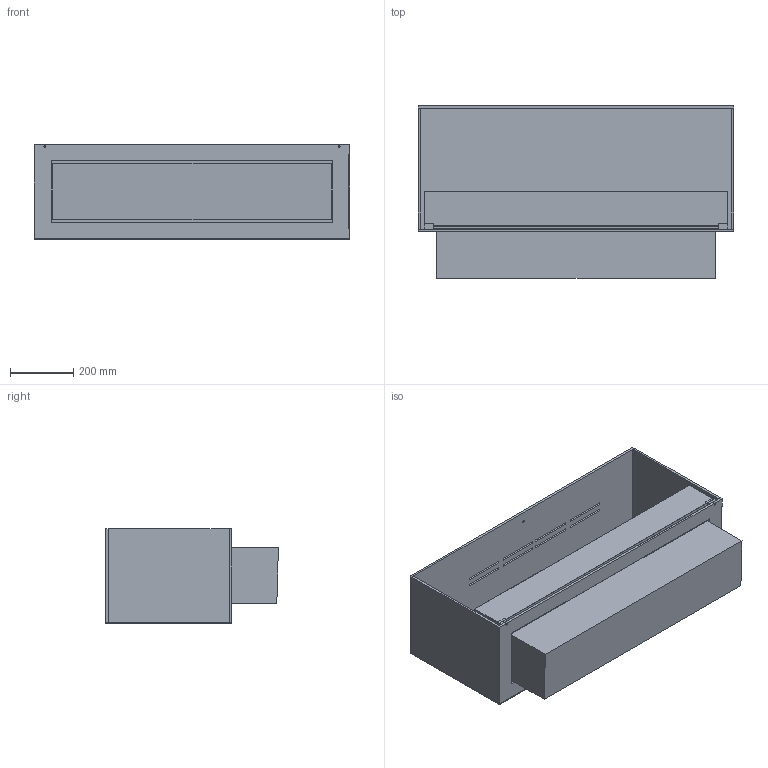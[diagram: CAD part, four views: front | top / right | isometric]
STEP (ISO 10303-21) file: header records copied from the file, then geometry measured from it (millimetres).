
FILE_DESCRIPTION (( 'STEP AP203' ), '1' );
FILE_NAME ('Montreal open front 1000 F3.STEP', '2024-03-13T10:42:40', ( '' ), ( '' ), 'SwSTEP 2.0', 'SolidWorks 2023', '' );
FILE_SCHEMA (( 'CONFIG_CONTROL_DESIGN' ));
Length unit declared in the file: millimetre
Products named in the file (9): 8mm alu Top - P&G -1120SIShowroom -look book; Glas holder flad med sider 10mm; Denver F6_uden glas; Montreal open front 1000 F3; 3mm alu Bag - P&G -1120SIShowroom -look book; Part3^P&G -1120SI Montreal Single AUTOShowroom -look book; 8mm alu Bund - P&G -1120SIShowroom -look book; Part1^P&G -1120SI Montreal Single AUTOShowroom -look book; 8mm alu Side - P&G -1120SIShowroom -look book_Glass
Assembly tree (9 placements, depth 2):
  Montreal open front 1000 F3
    8mm alu Top - P&G -1120SIShowroom -look book
    8mm alu Bund - P&G -1120SIShowroom -look book
    8mm alu Side - P&G -1120SIShowroom -look book_Glass  x2
    3mm alu Bag - P&G -1120SIShowroom -look book
    Glas holder flad med sider 10mm  x2
    Part1^P&G -1120SI Montreal Single AUTOShowroom -look book
    Denver F6_uden glas
  Part3^P&G -1120SI Montreal Single AUTOShowroom -look book
Bounding box: 1000 x 548 x 300 mm (x, y, z)
Volume: 32081908.5 mm3; surface area: 3486165.2 mm2
Topology: 13 solids, 13 shells, 224 faces, 588 edges, 392 vertices
Faces by surface type: plane 156, cylinder 68
Entity records: 7272 total; most frequent: CARTESIAN_POINT 1103, DIRECTION 1084, ORIENTED_EDGE 1068, EDGE_CURVE 534, VECTOR 410, LINE 410, VERTEX_POINT 356, AXIS2_PLACEMENT_3D 337
